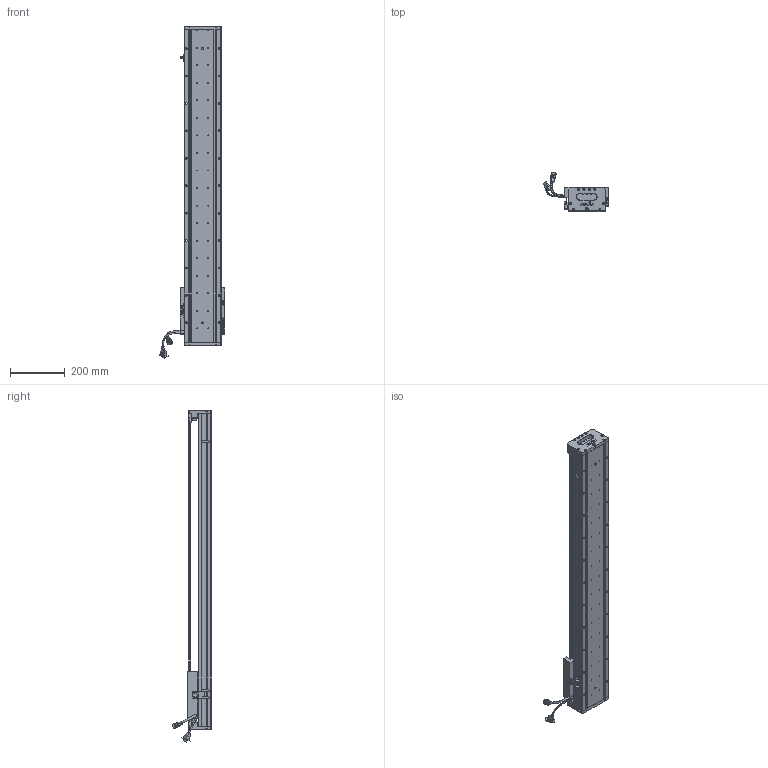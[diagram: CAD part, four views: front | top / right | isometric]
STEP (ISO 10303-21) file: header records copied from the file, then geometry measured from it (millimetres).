
FILE_DESCRIPTION (( 'STEP AP203' ), '1' );
FILE_NAME ('Z2-RY140D-1-L500-B-K.SLDASM_0900.step', '2021-05-17T07:45:36', ( '盈信电脑' ), ( '东莞市道滘镇水果街19号' ), 'SwSTEP 2.0', 'SolidWorks 2016', '' );
FILE_SCHEMA (( 'CONFIG_CONTROL_DESIGN' ));
Length unit declared in the file: millimetre
Products named in the file (36): SCREW-M1.7-1; Z-RY140詩湍狟揤裔; SEAL-Part-1; PSLH080_PSLF2; SCALE-Part-2; SCREW-M1.6-3; Z2-RY140-L500直线电机模组底座_0900; Z2-RY140D-1-L500-B-K.SLDASM_0900; HARNESS; SCREW-M1.6; 140雄赽晤鎢ん堤盄; PBU_SHEET; SEAL; COVER-Part-1; Z-RY140詩湍奻揤裔; SHIELDPLATE; SCALE; SCALE-Part-1; 080黍杅芛假蚾釱21遴; COVER; HOLDER0; 140蚥薯蝶輸; Z-RY140感应器672光电感应片; Z2-RY140圉猾敕臏賑輸(21遴); Z2-RY140-L500詩湍100mm遵_0900; 榋妏寠巭燃_暯_M2_2; HARNESS-Part-2; LABEL-Part-1; LABEL; SCREW-M1.6-1; SCREW-M1.7; Z-140詩湍傷裔啣; SCREW-M1.6-2; 覜茼ん672; 140-Z-臏賑輸盄裔(21遴); HARNESS-Part-1
Assembly tree (41 placements, depth 4):
  Z2-RY140D-1-L500-B-K.SLDASM_0900
    Z2-RY140-L500直线电机模组底座_0900
    Z-RY140感应器672光电感应片
    Z2-RY140圉猾敕臏賑輸(21遴)
    覜茼ん672  x3
    Z2-RY140-L500詩湍100mm遵_0900
    PSLH080_PSLF2
      SCALE
        SCALE-Part-1
        SCALE-Part-2
      HARNESS
        HARNESS-Part-1
        HARNESS-Part-2
      LABEL
        LABEL-Part-1
      COVER
        COVER-Part-1
      SEAL
        SEAL-Part-1
      榋妏寠巭燃_暯_M2_2
      SHIELDPLATE
      SCREW-M1.7
      SCREW-M1.7-1
      PBU_SHEET
      SCREW-M1.6
      SCREW-M1.6-1
      SCREW-M1.6-2
      SCREW-M1.6-3
      HOLDER0
    080黍杅芛假蚾釱21遴
    140-Z-臏賑輸盄裔(21遴)
    Z-140詩湍傷裔啣  x2
    Z-RY140詩湍狟揤裔  x2
    Z-RY140詩湍奻揤裔  x2
    140蚥薯蝶輸  x2
    140雄赽晤鎢ん堤盄
Bounding box: 239.84 x 143.77 x 1210.88 mm (x, y, z)
Volume: 4236936.5 mm3; surface area: 1112114.9 mm2
Topology: 36 solids, 36 shells, 3022 faces, 7994 edges, 5063 vertices
Faces by surface type: cylinder 1444, plane 1156, cone 290, torus 79, bspline 53
Entity records: 89390 total; most frequent: CARTESIAN_POINT 22939, ORIENTED_EDGE 13116, DIRECTION 12890, EDGE_CURVE 6558, AXIS2_PLACEMENT_3D 4750, VERTEX_POINT 4231, VECTOR 3390, LINE 3390
